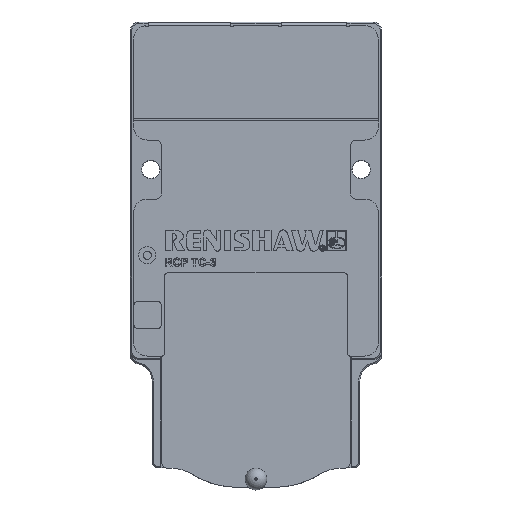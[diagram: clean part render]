
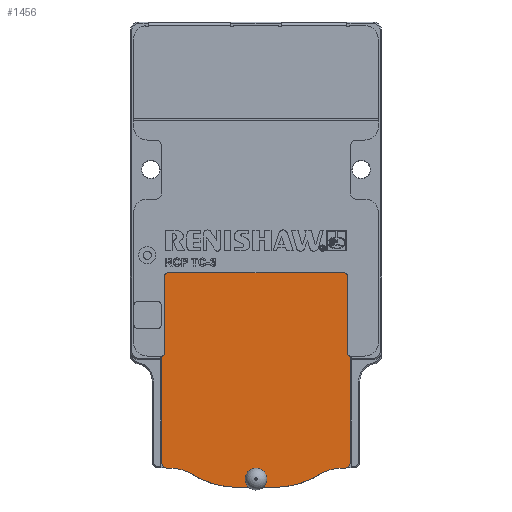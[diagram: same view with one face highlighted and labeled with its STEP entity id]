
A CAD part, top view. The second image highlights one B-rep face of the part: STEP entity #1456.
In plain terms, the highlighted planar face has unit normal (0, 0, 1).
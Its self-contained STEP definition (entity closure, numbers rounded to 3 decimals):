
#1456=ADVANCED_FACE('',(#2981,#2982),#1665,.T.);
#1665=PLANE('',#7698);
#2297=LINE('',#11901,#2821);
#2298=LINE('',#11907,#2822);
#2299=LINE('',#11911,#2823);
#2300=LINE('',#11915,#2824);
#2301=LINE('',#11919,#2825);
#2302=LINE('',#11923,#2826);
#2821=VECTOR('',#9200,1.);
#2822=VECTOR('',#9205,1.);
#2823=VECTOR('',#9208,1.);
#2824=VECTOR('',#9211,1.);
#2825=VECTOR('',#9214,1.);
#2826=VECTOR('',#9217,1.);
#2981=FACE_BOUND('',#3298,.T.);
#2982=FACE_BOUND('',#3299,.T.);
#3298=EDGE_LOOP('',(#5000,#5001,#5002,#5003,#5004,#5005,#5006,#5007,#5008,
#5009,#5010,#5011,#5012,#5013));
#3299=EDGE_LOOP('',(#5014));
#5000=ORIENTED_EDGE('',*,*,#6812,.F.);
#5001=ORIENTED_EDGE('',*,*,#6813,.F.);
#5002=ORIENTED_EDGE('',*,*,#6814,.T.);
#5003=ORIENTED_EDGE('',*,*,#6815,.T.);
#5004=ORIENTED_EDGE('',*,*,#6816,.F.);
#5005=ORIENTED_EDGE('',*,*,#6817,.T.);
#5006=ORIENTED_EDGE('',*,*,#6818,.F.);
#5007=ORIENTED_EDGE('',*,*,#6819,.T.);
#5008=ORIENTED_EDGE('',*,*,#6820,.F.);
#5009=ORIENTED_EDGE('',*,*,#6821,.T.);
#5010=ORIENTED_EDGE('',*,*,#6822,.F.);
#5011=ORIENTED_EDGE('',*,*,#6823,.T.);
#5012=ORIENTED_EDGE('',*,*,#6824,.T.);
#5013=ORIENTED_EDGE('',*,*,#6825,.T.);
#5014=ORIENTED_EDGE('',*,*,#6826,.T.);
#5897=VERTEX_POINT('',#11899);
#5898=VERTEX_POINT('',#11900);
#5899=VERTEX_POINT('',#11902);
#5900=VERTEX_POINT('',#11904);
#5901=VERTEX_POINT('',#11906);
#5902=VERTEX_POINT('',#11908);
#5903=VERTEX_POINT('',#11910);
#5904=VERTEX_POINT('',#11912);
#5905=VERTEX_POINT('',#11914);
#5906=VERTEX_POINT('',#11916);
#5907=VERTEX_POINT('',#11918);
#5908=VERTEX_POINT('',#11920);
#5909=VERTEX_POINT('',#11922);
#5910=VERTEX_POINT('',#11924);
#5911=VERTEX_POINT('',#11927);
#6812=EDGE_CURVE('',#5897,#5898,#7156,.T.);
#6813=EDGE_CURVE('',#5899,#5897,#2297,.T.);
#6814=EDGE_CURVE('',#5899,#5900,#7157,.T.);
#6815=EDGE_CURVE('',#5900,#5901,#7158,.T.);
#6816=EDGE_CURVE('',#5902,#5901,#2298,.T.);
#6817=EDGE_CURVE('',#5902,#5903,#7159,.T.);
#6818=EDGE_CURVE('',#5904,#5903,#2299,.T.);
#6819=EDGE_CURVE('',#5904,#5905,#7160,.T.);
#6820=EDGE_CURVE('',#5906,#5905,#2300,.T.);
#6821=EDGE_CURVE('',#5906,#5907,#7161,.T.);
#6822=EDGE_CURVE('',#5908,#5907,#2301,.T.);
#6823=EDGE_CURVE('',#5908,#5909,#7162,.T.);
#6824=EDGE_CURVE('',#5909,#5910,#2302,.T.);
#6825=EDGE_CURVE('',#5910,#5898,#7163,.T.);
#6826=EDGE_CURVE('',#5911,#5911,#7164,.T.);
#7156=CIRCLE('',#7689,32.071);
#7157=CIRCLE('',#7690,32.071);
#7158=CIRCLE('',#7691,15.);
#7159=CIRCLE('',#7692,2.);
#7160=CIRCLE('',#7693,8.2);
#7161=CIRCLE('',#7694,8.2);
#7162=CIRCLE('',#7695,2.);
#7163=CIRCLE('',#7696,15.);
#7164=CIRCLE('',#7697,2.8);
#7689=AXIS2_PLACEMENT_3D('',#11898,#9198,#9199);
#7690=AXIS2_PLACEMENT_3D('',#11903,#9201,#9202);
#7691=AXIS2_PLACEMENT_3D('',#11905,#9203,#9204);
#7692=AXIS2_PLACEMENT_3D('',#11909,#9206,#9207);
#7693=AXIS2_PLACEMENT_3D('',#11913,#9209,#9210);
#7694=AXIS2_PLACEMENT_3D('',#11917,#9212,#9213);
#7695=AXIS2_PLACEMENT_3D('',#11921,#9215,#9216);
#7696=AXIS2_PLACEMENT_3D('',#11925,#9218,#9219);
#7697=AXIS2_PLACEMENT_3D('',#11926,#9220,#9221);
#7698=AXIS2_PLACEMENT_3D('',#11928,#9222,#9223);
#9198=DIRECTION('',(0.,0.,-1.));
#9199=DIRECTION('',(-1.,0.,0.));
#9200=DIRECTION('',(-1.,0.,0.));
#9201=DIRECTION('',(0.,0.,1.));
#9202=DIRECTION('',(1.,0.,0.));
#9203=DIRECTION('',(0.,0.,-1.));
#9204=DIRECTION('',(1.,0.,0.));
#9205=DIRECTION('',(-1.,0.,0.));
#9206=DIRECTION('',(0.,0.,1.));
#9207=DIRECTION('',(1.,0.,0.));
#9208=DIRECTION('',(0.,-1.,0.));
#9209=DIRECTION('',(0.,0.,1.));
#9210=DIRECTION('',(1.,0.,0.));
#9211=DIRECTION('',(1.,0.,0.));
#9212=DIRECTION('',(0.,0.,1.));
#9213=DIRECTION('',(1.,0.,0.));
#9214=DIRECTION('',(0.,1.,0.));
#9215=DIRECTION('',(0.,0.,1.));
#9216=DIRECTION('',(1.,0.,0.));
#9217=DIRECTION('',(1.,0.,0.));
#9218=DIRECTION('',(0.,0.,-1.));
#9219=DIRECTION('',(1.,0.,0.));
#9220=DIRECTION('',(0.,0.,-1.));
#9221=DIRECTION('',(1.,0.,0.));
#9222=DIRECTION('',(0.,0.,1.));
#9223=DIRECTION('',(1.,0.,0.));
#11898=CARTESIAN_POINT('',(-6.45,0.421,7.25));
#11899=CARTESIAN_POINT('',(-6.45,-31.65,7.25));
#11900=CARTESIAN_POINT('',(-23.278,-26.881,7.25));
#11901=CARTESIAN_POINT('',(0.,-31.65,7.25));
#11902=CARTESIAN_POINT('',(6.45,-31.65,7.25));
#11903=CARTESIAN_POINT('',(6.45,0.421,7.25));
#11904=CARTESIAN_POINT('',(23.278,-26.881,7.25));
#11905=CARTESIAN_POINT('',(31.148,-39.65,7.25));
#11906=CARTESIAN_POINT('',(31.148,-24.65,7.25));
#11907=CARTESIAN_POINT('',(34.45,-24.65,7.25));
#11908=CARTESIAN_POINT('',(32.45,-24.65,7.25));
#11909=CARTESIAN_POINT('',(32.45,-22.65,7.25));
#11910=CARTESIAN_POINT('',(34.45,-22.65,7.25));
#11911=CARTESIAN_POINT('',(34.45,16.35,7.25));
#11912=CARTESIAN_POINT('',(34.45,56.15,7.25));
#11913=CARTESIAN_POINT('',(26.25,56.15,7.25));
#11914=CARTESIAN_POINT('',(26.25,64.35,7.25));
#11915=CARTESIAN_POINT('',(0.,64.35,7.25));
#11916=CARTESIAN_POINT('',(-26.25,64.35,7.25));
#11917=CARTESIAN_POINT('',(-26.25,56.15,7.25));
#11918=CARTESIAN_POINT('',(-34.45,56.15,7.25));
#11919=CARTESIAN_POINT('',(-34.45,16.35,7.25));
#11920=CARTESIAN_POINT('',(-34.45,-22.65,7.25));
#11921=CARTESIAN_POINT('',(-32.45,-22.65,7.25));
#11922=CARTESIAN_POINT('',(-32.45,-24.65,7.25));
#11923=CARTESIAN_POINT('',(-34.45,-24.65,7.25));
#11924=CARTESIAN_POINT('',(-31.148,-24.65,7.25));
#11925=CARTESIAN_POINT('',(-31.148,-39.65,7.25));
#11926=CARTESIAN_POINT('',(0.,-28.65,7.25));
#11927=CARTESIAN_POINT('',(2.8,-28.65,7.25));
#11928=CARTESIAN_POINT('',(0.,16.35,7.25));
